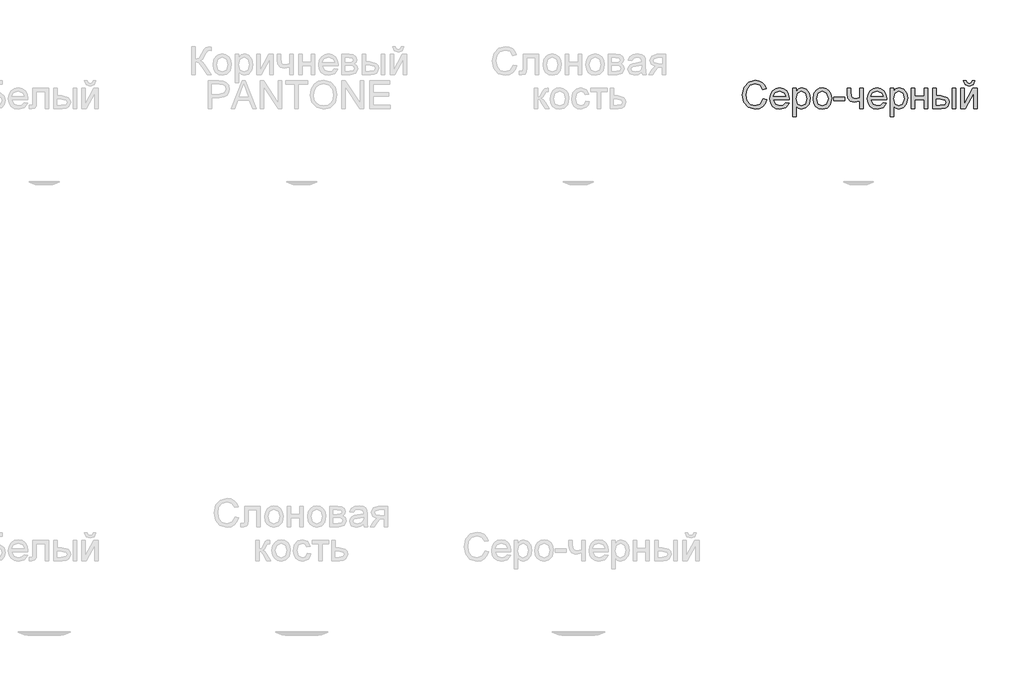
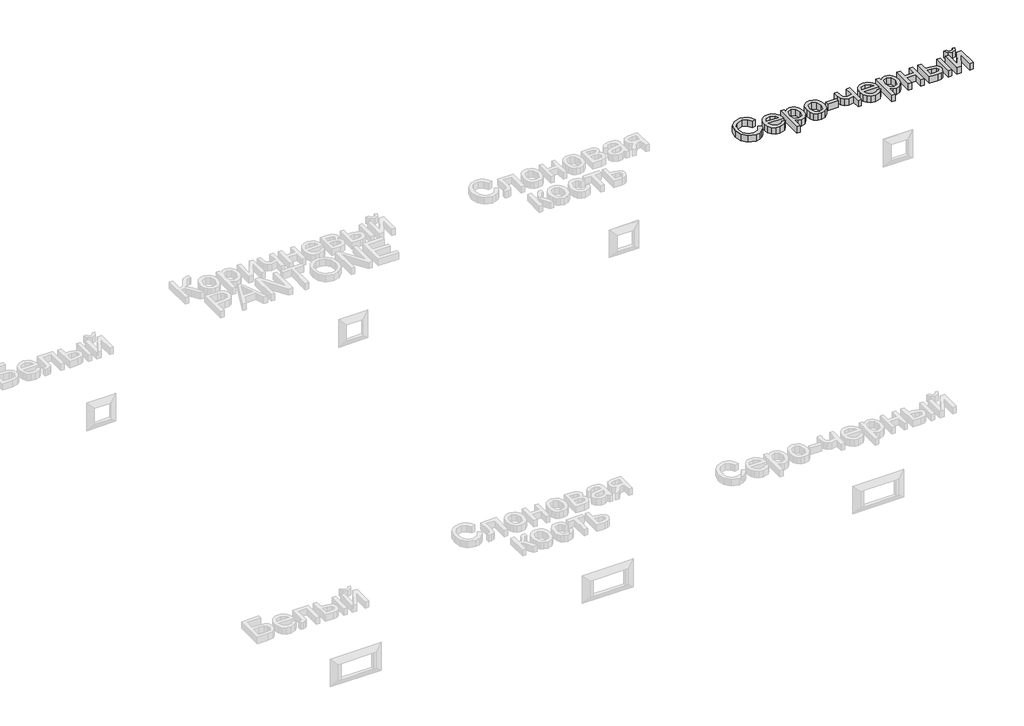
# One storey, part 46 of 47: 1 proxy.
"""IFC4 building model written with IfcOpenShell, lengths in millimetres."""

from ifc_helpers import new_model, si_unit, origin, origin_with_axes, place, context, project, spatial, polyline, outline, extrude, element, save

model = new_model("IFC4")

# Units and contexts
model_context = context("Model", 3, world=origin())
ifc_project = project(units=[si_unit("LENGTHUNIT", "METRE", prefix="MILLI")], contexts=[model_context])

# Site, building, storey
site = spatial("IfcSite", under=ifc_project)
building = spatial("IfcBuilding", under=site)
storey = spatial("IfcBuildingStorey", under=building, Name="Этаж 01", Elevation=0.0)

# Proxy
placement = place(None, origin())
element("IfcBuildingElementProxy", 1, Name="80 мм Arial", ObjectType="80 мм Arial", at=placement, inside=storey, context=model_context, shape_type="SweptSolid", body=[
    extrude(outline(polyline([(2072.5444141, 4285.1448843), (2082.5900451, 4282.5549951), (2077.954732, 4270.84899), (2070.6804787, 4262.2969599), (2061.125357, 4257.0656779), (2049.6474387, 4255.3219173), (2028.7419312, 4260.5997976), (2016.4791981, 4275.8840682), (2012.270628, 4297.3683768), (2017.0285685, 4319.205852), (2030.5568157, 4333.3619512), (2049.8632628, 4338.1983731), (2060.8776498, 4336.6336484), (2069.9839554, 4331.9394741), (2076.8976844, 4324.4052509), (2081.3343413, 4314.3203791), (2071.2887102, 4311.9266936), (2063.0481536, 4324.2777184), (2049.4708554, 4328.1527421), (2033.7549366, 4323.8558804), (2024.8767177, 4312.3191011), (2022.3162591, 4297.3879971), (2025.3476067, 4280.0828281), (2034.7850061, 4269.0267479), (2048.6467997, 4265.3675483), (2064.019362, 4270.351123), (2072.5444141, 4285.1448843)])), origin_with_axes(), (0.0, 0.0, 1.0), 20.0),
    extrude(outline(polyline([(2136.4675896, 4274.1574754), (2146.3170169, 4272.9017715), (2137.1052517, 4259.9327049), (2119.9472355, 4255.3219173), (2108.1602964, 4257.3109326), (2099.0907789, 4263.2779785), (2093.3076739, 4272.8355528), (2091.3799723, 4285.5961529), (2093.3272943, 4298.7859487), (2099.1692604, 4308.6500913), (2108.1161505, 4314.8010782), (2119.3782447, 4316.8514072), (2130.2896246, 4314.8059833), (2139.0084279, 4308.6697117), (2144.7253141, 4298.8251895), (2146.6309429, 4285.655014), (2146.5720817, 4282.9474026), (2101.4256033, 4282.9474026), (2107.2038032, 4269.8998545), (2120.1434392, 4265.3675483), (2129.9928665, 4267.4669282), (2136.4675896, 4274.1574754)]), holes=[polyline([(2101.4256033, 4292.9930336), (2136.5853118, 4292.9930336), (2132.5631354, 4302.0968867), (2119.3390039, 4306.8057762), (2106.9683587, 4303.0484748), (2101.4256033, 4292.9930336)])]), origin_with_axes(), (0.0, 0.0, 1.0), 20.0),
    extrude(outline(polyline([(2156.6765739, 4233.9749514), (2156.6765739, 4315.5957034), (2166.7222049, 4315.5957034), (2166.7222049, 4305.7462761), (2173.667817, 4314.0751244), (2183.0463553, 4316.8514072), (2195.7799774, 4312.9665734), (2204.0990156, 4302.0184052), (2206.904729, 4286.5379308), (2203.7360387, 4270.2628314), (2194.5340837, 4259.1773206), (2181.8298922, 4255.3219173), (2173.089016, 4257.9019963), (2166.7222049, 4264.4257704), (2166.7222049, 4233.9749514), (2156.6765739, 4233.9749514)]), holes=[polyline([(2166.7222049, 4285.6157733), (2171.0681175, 4270.3118823), (2181.6140681, 4265.3675483), (2192.3758427, 4270.4884657), (2196.8590979, 4286.3613475), (2192.4837547, 4301.7044792), (2182.0260959, 4306.8057762), (2171.3624231, 4301.3807431), (2166.7222049, 4285.6157733)])]), origin_with_axes(), (0.0, 0.0, 1.0), 20.0),
    extrude(outline(polyline([(2215.6946561, 4286.0866622), (2217.8676124, 4300.3163378), (2224.3864814, 4310.317823), (2232.4406445, 4315.2180112), (2242.0840579, 4316.8514072), (2252.637366, 4314.8623919), (2261.0667688, 4308.8953459), (2266.5923564, 4299.4211583), (2268.4342189, 4286.9107179), (2265.177237, 4269.036558), (2255.6907866, 4258.9222557), (2242.0840579, 4255.3219173), (2231.4032173, 4257.3035749), (2222.9836247, 4263.248548), (2217.5168982, 4272.9213919), (2215.6946561, 4286.0866622)]), holes=[polyline([(2225.7402871, 4286.1062826), (2230.3903155, 4270.5375166), (2242.0840579, 4265.3675483), (2253.7385595, 4270.5669471), (2258.3885879, 4286.4202086), (2253.7091289, 4301.6358079), (2242.0840579, 4306.8057762), (2230.3903155, 4301.6554283), (2225.7402871, 4286.1062826)])]), origin_with_axes(), (0.0, 0.0, 1.0), 20.0),
    extrude(outline(polyline([(2274.7127383, 4280.4359948), (2274.7127383, 4290.4816258), (2306.1053352, 4290.4816258), (2306.1053352, 4280.4359948), (2274.7127383, 4280.4359948)])), origin_with_axes(), (0.0, 0.0, 1.0), 20.0),
    extrude(outline(polyline([(2313.6395585, 4315.5957034), (2323.6851895, 4315.5957034), (2323.6851895, 4304.2747481), (2324.499435, 4293.6601263), (2328.4136994, 4287.9113569), (2336.1833671, 4285.4588103), (2350.0549709, 4288.4999681), (2350.0549709, 4315.5957034), (2360.1006019, 4315.5957034), (2360.1006019, 4256.5776211), (2350.0549709, 4256.5776211), (2350.0549709, 4278.866365), (2333.495376, 4275.4131793), (2322.1057495, 4279.0135178), (2315.4053921, 4287.8328755), (2313.6395585, 4299.3107937), (2313.6395585, 4315.5957034)])), origin_with_axes(), (0.0, 0.0, 1.0), 20.0),
    extrude(outline(polyline([(2416.4895541, 4274.1574754), (2426.3389814, 4272.9017715), (2417.1272163, 4259.9327049), (2399.9692, 4255.3219173), (2388.1822609, 4257.3109326), (2379.1127434, 4263.2779785), (2373.3296385, 4272.8355528), (2371.4019368, 4285.5961529), (2373.3492588, 4298.7859487), (2379.1912249, 4308.6500913), (2388.1381151, 4314.8010782), (2399.4002092, 4316.8514072), (2410.3115892, 4314.8059833), (2419.0303925, 4308.6697117), (2424.7472787, 4298.8251895), (2426.6529074, 4285.655014), (2426.5940463, 4282.9474026), (2381.4475678, 4282.9474026), (2387.2257677, 4269.8998545), (2400.1654038, 4265.3675483), (2410.014831, 4267.4669282), (2416.4895541, 4274.1574754)]), holes=[polyline([(2381.4475678, 4292.9930336), (2416.6072764, 4292.9930336), (2412.5850999, 4302.0968867), (2399.3609685, 4306.8057762), (2386.9903232, 4303.0484748), (2381.4475678, 4292.9930336)])]), origin_with_axes(), (0.0, 0.0, 1.0), 20.0),
    extrude(outline(polyline([(2436.6985384, 4233.9749514), (2436.6985384, 4315.5957034), (2446.7441694, 4315.5957034), (2446.7441694, 4305.7462761), (2453.6897815, 4314.0751244), (2463.0683198, 4316.8514072), (2475.801942, 4312.9665734), (2484.1209801, 4302.0184052), (2486.9266935, 4286.5379308), (2483.7580032, 4270.2628314), (2474.5560483, 4259.1773206), (2461.8518567, 4255.3219173), (2453.1109805, 4257.9019963), (2446.7441694, 4264.4257704), (2446.7441694, 4233.9749514), (2436.6985384, 4233.9749514)]), holes=[polyline([(2446.7441694, 4285.6157733), (2451.0900821, 4270.3118823), (2461.6360326, 4265.3675483), (2472.3978072, 4270.4884657), (2476.8810625, 4286.3613475), (2472.5057193, 4301.7044792), (2462.0480604, 4306.8057762), (2451.3843877, 4301.3807431), (2446.7441694, 4285.6157733)])]), origin_with_axes(), (0.0, 0.0, 1.0), 20.0),
    extrude(outline(polyline([(2498.2280284, 4315.5957034), (2508.2736594, 4315.5957034), (2508.2736594, 4292.9930336), (2534.6434408, 4292.9930336), (2534.6434408, 4315.5957034), (2544.6890718, 4315.5957034), (2544.6890718, 4256.5776211), (2534.6434408, 4256.5776211), (2534.6434408, 4282.9474026), (2508.2736594, 4282.9474026), (2508.2736594, 4256.5776211), (2498.2280284, 4256.5776211), (2498.2280284, 4315.5957034)])), origin_with_axes(), (0.0, 0.0, 1.0), 20.0),
    extrude(outline(polyline([(2615.0084889, 4315.5957034), (2625.0541199, 4315.5957034), (2625.0541199, 4256.5776211), (2615.0084889, 4256.5776211), (2615.0084889, 4315.5957034)])), origin_with_axes(), (0.0, 0.0, 1.0), 20.0),
    extrude(outline(polyline([(2559.7575184, 4315.5957034), (2569.8031494, 4315.5957034), (2569.8031494, 4294.2487374), (2582.2228455, 4294.2487374), (2600.9112509, 4289.2161118), (2605.833512, 4283.2294454), (2607.4742657, 4275.3346978), (2601.970751, 4262.0811358), (2594.8215776, 4257.9534998), (2584.3810866, 4256.5776211), (2559.7575184, 4256.5776211), (2559.7575184, 4315.5957034)]), holes=[polyline([(2569.8031494, 4266.6232522), (2580.1234656, 4266.6232522), (2593.4456989, 4268.7324423), (2597.4286347, 4275.3150774), (2594.4757685, 4281.4954949), (2581.4380306, 4284.2031064), (2569.8031494, 4284.2031064), (2569.8031494, 4266.6232522)])]), origin_with_axes(), (0.0, 0.0, 1.0), 20.0),
    extrude(outline(polyline([(2640.1225665, 4315.5957034), (2650.1681975, 4315.5957034), (2650.1681975, 4270.5865675), (2674.8506268, 4315.5957034), (2687.8393138, 4315.5957034), (2687.8393138, 4256.5776211), (2677.7936828, 4256.5776211), (2677.7936828, 4301.3120718), (2653.2682164, 4256.5776211), (2640.1225665, 4256.5776211), (2640.1225665, 4315.5957034)])), origin_with_axes(), (0.0, 0.0, 1.0), 20.0),
    extrude(outline(polyline([(2672.7708673, 4336.9426693), (2680.3050905, 4336.9426693), (2675.4294278, 4325.7688668), (2664.6087921, 4321.8742227), (2652.8954293, 4325.7394362), (2647.6567897, 4336.9426693), (2655.191013, 4336.9426693), (2658.0163467, 4331.2821916), (2663.7062549, 4329.408446), (2669.9455335, 4331.2233305), (2672.7708673, 4336.9426693)])), origin_with_axes(), (0.0, 0.0, 1.0), 20.0),
])

save(model, "model.ifc")
